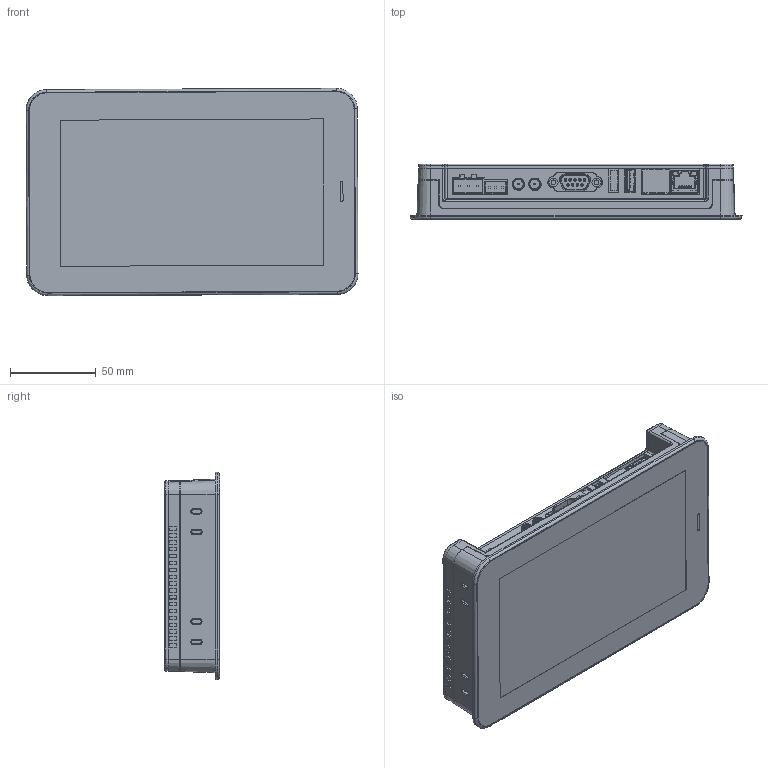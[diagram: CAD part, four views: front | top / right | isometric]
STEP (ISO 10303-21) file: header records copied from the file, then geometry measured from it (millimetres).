
FILE_DESCRIPTION (( 'STEP AP203' ), '1' );
FILE_NAME ('HMI-A7炵蹈 籵蚚3D.STEP', '2024-03-19T11:10:32', ( 'h''w''s''j''s' ), ( '' ), 'SwSTEP 2.0', 'SolidWorks 2020', '' );
FILE_SCHEMA (( 'CONFIG_CONTROL_DESIGN' ));
Products named in the file (1): HMI-A7炵蹈 籵蚚3D
Bounding box: 193.54 x 32.32 x 120.85 mm (x, y, z)
Volume: 563558 mm3; surface area: 178408.1 mm2
Topology: 3 solids, 10 shells, 2928 faces, 7902 edges, 5034 vertices
Faces by surface type: plane 2221, cylinder 486, cone 94, bspline 49, torus 45, sphere 33
Entity records: 108315 total; most frequent: CARTESIAN_POINT 37225, ORIENTED_EDGE 15734, DIRECTION 13148, EDGE_CURVE 7867, LINE 5512, VECTOR 5512, VERTEX_POINT 5030, AXIS2_PLACEMENT_3D 3818
